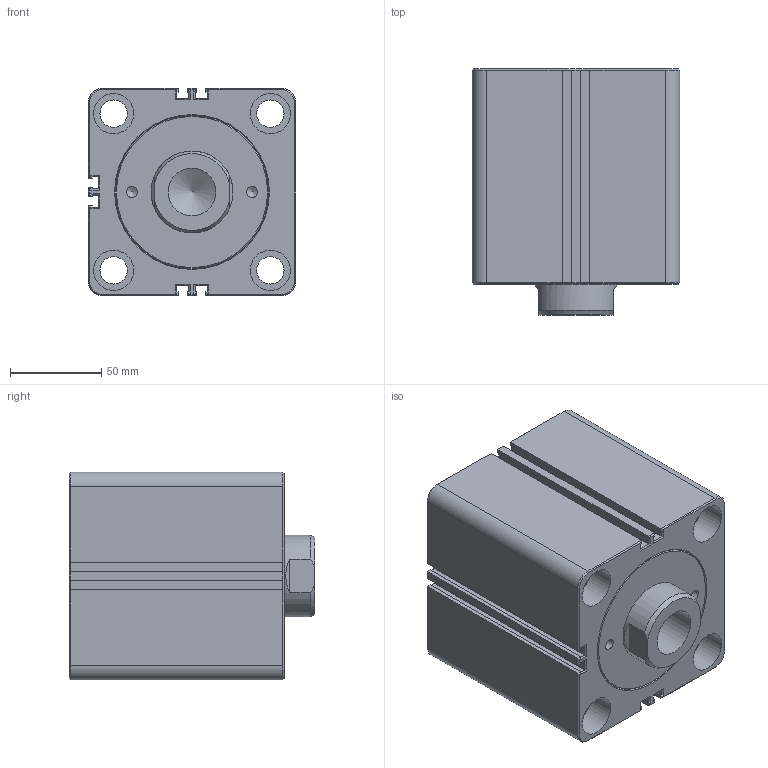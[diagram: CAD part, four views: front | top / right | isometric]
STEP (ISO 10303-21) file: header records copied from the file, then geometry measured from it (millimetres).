
FILE_DESCRIPTION(/* description */ ('Unknown'),/* implementation_level */ '2;1');
FILE_NAME(/* name */ 'HTM70-SDMB80X40N',/* time_stamp */ '2022-08-31T05:48:20+08:00',/* author */ ('Unknown'),/* organization */ ('Unknown'),/* preprocessor_version */ 'ST-DEVELOPER v16.7',/* originating_system */ 'DEX',/* authorisation */ $);
FILE_SCHEMA (('AUTOMOTIVE_DESIGN {1 0 10303 214 3 1 1}'));
Length unit declared in the file: millimetre
Products named in the file (1): HTM70-SDMB80X40N
Bounding box: 114 x 135 x 114 mm (x, y, z)
Volume: 1395241.4 mm3; surface area: 118776.2 mm2
Topology: 1 solids, 1 shells, 281 faces, 635 edges, 374 vertices
Faces by surface type: plane 180, cone 38, bspline 36, cylinder 27
Full cylindrical faces by diameter (mm): 6 x1, 6.1 x2, 7 x2, 15 x6, 16.5 x2, 22 x8, 26.211 x1, 45 x1
Entity records: 9649 total; most frequent: CARTESIAN_POINT 1869, ORIENTED_EDGE 1162, DIRECTION 1100, EDGE_CURVE 581, LINE 402, VECTOR 402, VERTEX_POINT 358, AXIS2_PLACEMENT_3D 349
